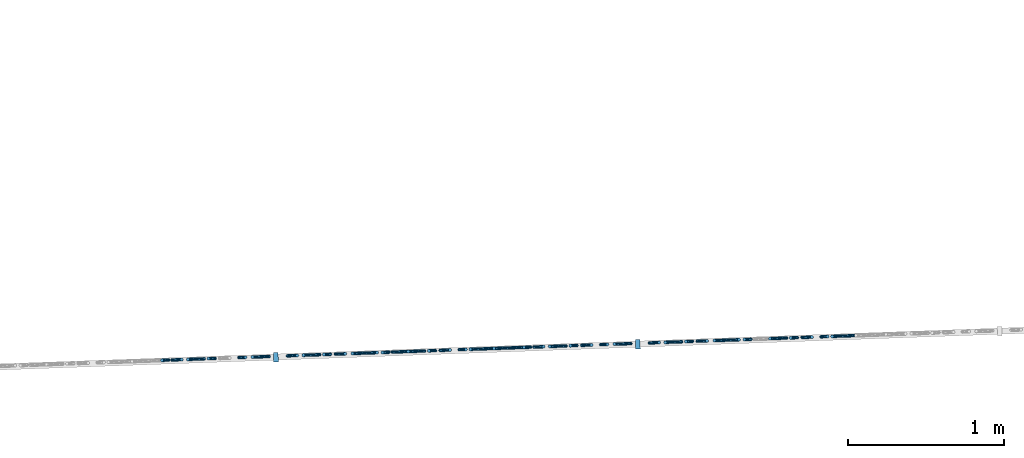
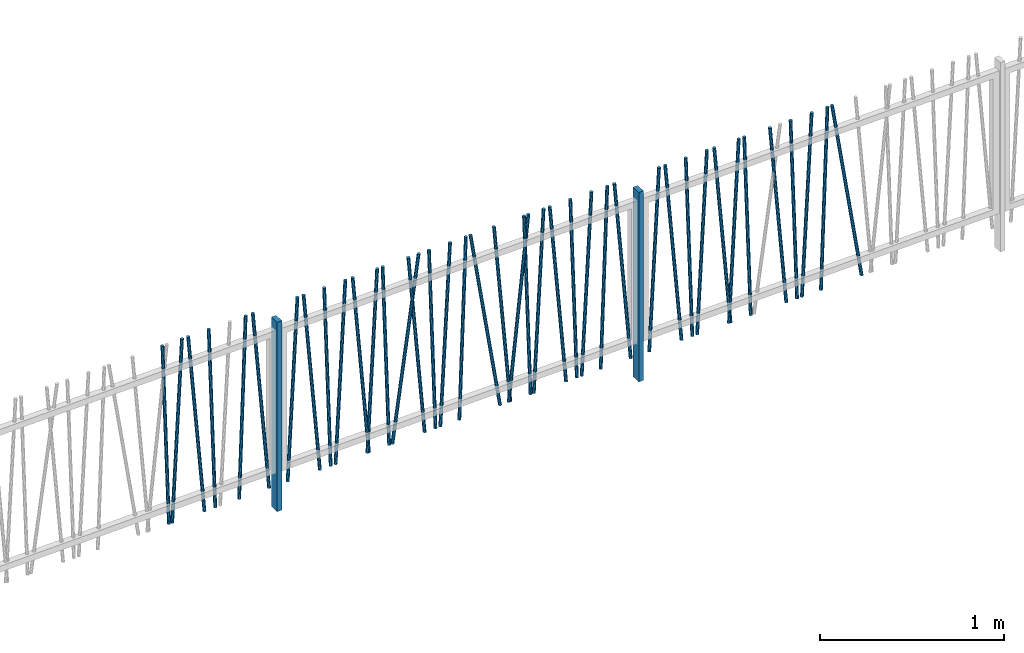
# One storey, part 3 of 171: 42 columns.
"""IFC2X3 building model written with IfcOpenShell, lengths in millimetres."""

from ifc_helpers import new_model, entity, si_unit, converted_unit, derived_unit, money_unit, direction, frame, origin_with_axes, origin_2d_with_axis, place, context, subcontext, project, spatial, rectangle, circle, extrude, clip, halfspace, material, type_object, element, save


model = new_model("IFC2X3")

# Units and contexts
model_context = context("Model", 3, precision=0.01, world=origin_with_axes(), true_north=direction((0.0, 1.0)))
body_context = subcontext(model_context, "Body", "Model", "MODEL_VIEW")
ifc_project = project(units=[si_unit("LENGTHUNIT", "METRE", prefix="MILLI"), si_unit("AREAUNIT", "SQUARE_METRE"), si_unit("VOLUMEUNIT", "CUBIC_METRE"), converted_unit("PLANEANGLEUNIT", "DEGREE", entity("IfcPlaneAngleMeasure", 0.0174532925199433), si_unit("PLANEANGLEUNIT", "RADIAN"), dimensions=[0, 0, 0, 0, 0, 0, 0]), money_unit("USD"), converted_unit("TIMEUNIT", "Year", entity("IfcTimeMeasure", 31557600.0), si_unit("TIMEUNIT", "SECOND"), dimensions=[0, 0, 1, 0, 0, 0, 0]), si_unit("MASSUNIT", "GRAM", prefix="KILO"), si_unit("THERMODYNAMICTEMPERATUREUNIT", "DEGREE_CELSIUS"), si_unit("LUMINOUSINTENSITYUNIT", "LUMEN"), si_unit("ENERGYUNIT", "JOULE", prefix="MEGA"), derived_unit("THERMALCONDUCTANCEUNIT", [(si_unit("POWERUNIT", "WATT"), 1), (si_unit("LENGTHUNIT", "METRE"), -1), (si_unit("THERMODYNAMICTEMPERATUREUNIT", "KELVIN"), -1)]), derived_unit("SPECIFICHEATCAPACITYUNIT", [(si_unit("ENERGYUNIT", "JOULE"), 1), (si_unit("MASSUNIT", "GRAM", prefix="KILO"), -1), (si_unit("THERMODYNAMICTEMPERATUREUNIT", "KELVIN"), -1)]), derived_unit("MASSDENSITYUNIT", [(si_unit("MASSUNIT", "GRAM", prefix="KILO"), 1), (si_unit("VOLUMEUNIT", "CUBIC_METRE"), -1)])], contexts=[model_context])

# Site, building, storey
site_placement = place(None, origin_with_axes())
site = spatial("IfcSite", under=ifc_project, at=site_placement, Name="Site", CompositionType="ELEMENT")
building_placement = place(site_placement, origin_with_axes())
building = spatial("IfcBuilding", under=site, at=building_placement, Name="Bâtiment", CompositionType="ELEMENT")
storey_placement = place(building_placement, frame((0.0, 0.0, 3000.0), z_axis=(0.0, 0.0, 1.0), x_axis=(1.0, 0.0, 0.0)))
storey = spatial("IfcBuildingStorey", under=building, at=storey_placement, Name="rdc", CompositionType="ELEMENT", Elevation=3000.0)

# Columns
ifc_material = material(Name="Empty Fill 2959611567")
column_type_1 = type_object("IfcColumnType", Name="Empty Fill 2959611567 D20", PredefinedType="NOTDEFINED")
column_1_placement = place(storey_placement, frame((2223132.164881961, -667928.4250005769, -1950.0), z_axis=(0.0, 0.0, 1.0), x_axis=(-0.03567989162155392, 0.9993632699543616, 0.0)))
element("IfcColumn", 1, at=column_1_placement, inside=storey, type_object=column_type_1, material=ifc_material, Name="Pilier-019", context=body_context, shape_type="Clipping", body=[
    clip(clip(extrude(circle(Radius=10.0, at=origin_2d_with_axis()), frame((0.0, -0.152502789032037, -1.743114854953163), z_axis=(0.0, 0.08715574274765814, 0.9961946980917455), x_axis=(1.0, 0.0, 0.0)), (0.0, 0.0, 1.0), 1208.083351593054), halfspace(frame((0.0, 0.0, 0.0), z_axis=(0.0, 0.0, 1.0), x_axis=(0.0, -1.0, 0.0)), True)), halfspace(frame((0.0, 0.0, 1200.0), z_axis=(0.0, 0.0, -1.0), x_axis=(0.0, 1.0, 0.0)), True)),
])
column_2_placement = place(storey_placement, frame((2222786.167293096, -667940.7780225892, -1950.0), z_axis=(0.0, 0.0, 1.0), x_axis=(-0.03567989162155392, 0.9993632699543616, 0.0)))
element("IfcColumn", 2, at=column_2_placement, inside=storey, type_object=column_type_1, material=ifc_material, Name="Pilier-019", context=body_context, shape_type="Clipping", body=[
    clip(clip(extrude(circle(Radius=10.0, at=origin_2d_with_axis()), frame((0.0, -0.02437434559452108, -0.6979899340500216), z_axis=(0.0, 0.03489949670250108, 0.9993908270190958), x_axis=(1.0, 0.0, 0.0)), (0.0, 0.0, 1.0), 1202.128283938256), halfspace(frame((0.0, 0.0, 0.0), z_axis=(0.0, 0.0, 1.0), x_axis=(0.0, -1.0, 0.0)), True)), halfspace(frame((0.0, 0.0, 1200.0), z_axis=(0.0, 0.0, -1.0), x_axis=(0.0, 1.0, 0.0)), True)),
])
column_3_placement = place(storey_placement, frame((2222939.695597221, -667935.2966591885, -1950.0), z_axis=(0.0, 0.0, 1.0), x_axis=(0.03567989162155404, -0.9993632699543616, 0.0)))
element("IfcColumn", 3, at=column_3_placement, inside=storey, type_object=column_type_1, material=ifc_material, Name="Pilier-019", context=body_context, shape_type="Clipping", body=[
    clip(clip(extrude(circle(Radius=10.0, at=origin_2d_with_axis()), frame((0.0, -0.02437434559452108, -0.6979899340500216), z_axis=(0.0, -0.03489949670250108, -0.9993908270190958), x_axis=(-1.0, 0.0, 0.0)), (0.0, 0.0, -1.0), 1202.128283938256), halfspace(frame((0.0, 0.0, 0.0), z_axis=(0.0, 0.0, 1.0), x_axis=(0.0, -1.0, 0.0)), True)), halfspace(frame((0.0, 0.0, 1200.0), z_axis=(0.0, 0.0, -1.0), x_axis=(0.0, 1.0, 0.0)), True)),
])
column_4_placement = place(storey_placement, frame((2222716.747175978, -667943.2565029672, -1950.0), z_axis=(0.0, 0.0, 1.0), x_axis=(-0.03567989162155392, 0.9993632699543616, 0.0)))
element("IfcColumn", 4, at=column_4_placement, inside=storey, type_object=column_type_1, material=ifc_material, Name="Pilier-019", context=body_context, shape_type="Clipping", body=[
    clip(clip(extrude(circle(Radius=10.0, at=origin_2d_with_axis()), frame((0.0, -0.152502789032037, -1.743114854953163), z_axis=(0.0, 0.08715574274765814, 0.9961946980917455), x_axis=(1.0, 0.0, 0.0)), (0.0, 0.0, 1.0), 1208.083351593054), halfspace(frame((0.0, 0.0, 0.0), z_axis=(0.0, 0.0, 1.0), x_axis=(0.0, -1.0, 0.0)), True)), halfspace(frame((0.0, 0.0, 1200.0), z_axis=(0.0, 0.0, -1.0), x_axis=(0.0, 1.0, 0.0)), True)),
])
column_5_placement = place(storey_placement, frame((2222509.738663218, -667950.647250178, -1950.0), z_axis=(0.0, 0.0, 1.0), x_axis=(0.03567989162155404, -0.9993632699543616, 0.0)))
element("IfcColumn", 5, at=column_5_placement, inside=storey, type_object=column_type_1, material=ifc_material, Name="Pilier-019", context=body_context, shape_type="Clipping", body=[
    clip(clip(extrude(circle(Radius=10.0, at=origin_2d_with_axis()), frame((0.0, -0.05485622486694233, -1.046719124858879), z_axis=(0.0, -0.05233595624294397, -0.9986295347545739), x_axis=(-1.0, 0.0, 0.0)), (0.0, 0.0, -1.0), 1203.743126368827), halfspace(frame((0.0, 0.0, 0.0), z_axis=(0.0, 0.0, 1.0), x_axis=(0.0, -1.0, 0.0)), True)), halfspace(frame((0.0, 0.0, 1200.0), z_axis=(0.0, 0.0, -1.0), x_axis=(0.0, 1.0, 0.0)), True)),
])
column_6_placement = place(storey_placement, frame((2222488.617743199, -667951.4013224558, -1950.0), z_axis=(0.0, 0.0, 1.0), x_axis=(-0.03567989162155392, 0.9993632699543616, 0.0)))
element("IfcColumn", 6, at=column_6_placement, inside=storey, type_object=column_type_1, material=ifc_material, Name="Pilier-019", context=body_context, shape_type="Clipping", body=[
    clip(clip(extrude(circle(Radius=10.0, at=origin_2d_with_axis()), frame((0.0, -0.02437434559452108, -0.6979899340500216), z_axis=(0.0, 0.03489949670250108, 0.9993908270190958), x_axis=(1.0, 0.0, 0.0)), (0.0, 0.0, 1.0), 1202.128283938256), halfspace(frame((0.0, 0.0, 0.0), z_axis=(0.0, 0.0, 1.0), x_axis=(0.0, -1.0, 0.0)), True)), halfspace(frame((0.0, 0.0, 1200.0), z_axis=(0.0, 0.0, -1.0), x_axis=(0.0, 1.0, 0.0)), True)),
])
column_7_placement = place(storey_placement, frame((2223763.590856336, -667905.8814360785, -1950.0), z_axis=(0.0, 0.0, 1.0), x_axis=(0.03567989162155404, -0.9993632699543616, 0.0)))
element("IfcColumn", 7, at=column_7_placement, inside=storey, type_object=column_type_1, material=ifc_material, Name="Pilier-019", context=body_context, shape_type="Clipping", body=[
    clip(clip(extrude(circle(Radius=10.0, at=origin_2d_with_axis()), frame((0.0, -0.05485622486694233, -1.046719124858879), z_axis=(0.0, -0.05233595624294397, -0.9986295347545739), x_axis=(-1.0, 0.0, 0.0)), (0.0, 0.0, -1.0), 1203.743126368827), halfspace(frame((0.0, 0.0, 0.0), z_axis=(0.0, 0.0, 1.0), x_axis=(0.0, -1.0, 0.0)), True)), halfspace(frame((0.0, 0.0, 1200.0), z_axis=(0.0, 0.0, -1.0), x_axis=(0.0, 1.0, 0.0)), True)),
])
column_8_placement = place(storey_placement, frame((2224200.868986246, -667890.2694591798, -1950.0), z_axis=(0.0, 0.0, 1.0), x_axis=(-0.03567989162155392, 0.9993632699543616, 0.0)))
element("IfcColumn", 8, at=column_8_placement, inside=storey, type_object=column_type_1, material=ifc_material, Name="Pilier-019", context=body_context, shape_type="Clipping", body=[
    clip(clip(extrude(circle(Radius=10.0, at=origin_2d_with_axis()), frame((0.0, -0.02437434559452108, -0.6979899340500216), z_axis=(0.0, 0.03489949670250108, 0.9993908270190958), x_axis=(1.0, 0.0, 0.0)), (0.0, 0.0, 1.0), 1202.128283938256), halfspace(frame((0.0, 0.0, 0.0), z_axis=(0.0, 0.0, 1.0), x_axis=(0.0, -1.0, 0.0)), True)), halfspace(frame((0.0, 0.0, 1200.0), z_axis=(0.0, 0.0, -1.0), x_axis=(0.0, 1.0, 0.0)), True)),
])
column_9_placement = place(storey_placement, frame((2224354.397290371, -667884.7880957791, -1950.0), z_axis=(0.0, 0.0, 1.0), x_axis=(0.03567989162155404, -0.9993632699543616, 0.0)))
element("IfcColumn", 9, at=column_9_placement, inside=storey, type_object=column_type_1, material=ifc_material, Name="Pilier-019", context=body_context, shape_type="Clipping", body=[
    clip(clip(extrude(circle(Radius=10.0, at=origin_2d_with_axis()), frame((0.0, -0.02437434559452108, -0.6979899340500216), z_axis=(0.0, -0.03489949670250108, -0.9993908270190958), x_axis=(-1.0, 0.0, 0.0)), (0.0, 0.0, -1.0), 1202.128283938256), halfspace(frame((0.0, 0.0, 0.0), z_axis=(0.0, 0.0, 1.0), x_axis=(0.0, -1.0, 0.0)), True)), halfspace(frame((0.0, 0.0, 1200.0), z_axis=(0.0, 0.0, -1.0), x_axis=(0.0, 1.0, 0.0)), True)),
])
column_10_placement = place(storey_placement, frame((2223903.319436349, -667900.8927590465, -1950.0), z_axis=(0.0, 0.0, 1.0), x_axis=(-0.03567989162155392, 0.9993632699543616, 0.0)))
element("IfcColumn", 10, at=column_10_placement, inside=storey, type_object=column_type_1, material=ifc_material, Name="Pilier-019", context=body_context, shape_type="Clipping", body=[
    clip(clip(extrude(circle(Radius=10.0, at=origin_2d_with_axis()), frame((0.0, -0.02437434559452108, -0.6979899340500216), z_axis=(0.0, 0.03489949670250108, 0.9993908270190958), x_axis=(1.0, 0.0, 0.0)), (0.0, 0.0, 1.0), 1202.128283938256), halfspace(frame((0.0, 0.0, 0.0), z_axis=(0.0, 0.0, 1.0), x_axis=(0.0, -1.0, 0.0)), True)), halfspace(frame((0.0, 0.0, 1200.0), z_axis=(0.0, 0.0, -1.0), x_axis=(0.0, 1.0, 0.0)), True)),
])
column_11_placement = place(storey_placement, frame((2224232.142214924, -667889.1529228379, -1950.0), z_axis=(0.0, 0.0, 1.0), x_axis=(0.03567989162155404, -0.9993632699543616, 0.0)))
element("IfcColumn", 11, at=column_11_placement, inside=storey, type_object=column_type_1, material=ifc_material, Name="Pilier-019", context=body_context, shape_type="Clipping", body=[
    clip(clip(extrude(circle(Radius=10.0, at=origin_2d_with_axis()), frame((0.0, -0.05485622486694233, -1.046719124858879), z_axis=(0.0, -0.05233595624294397, -0.9986295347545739), x_axis=(-1.0, 0.0, 0.0)), (0.0, 0.0, -1.0), 1203.743126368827), halfspace(frame((0.0, 0.0, 0.0), z_axis=(0.0, 0.0, 1.0), x_axis=(0.0, -1.0, 0.0)), True)), halfspace(frame((0.0, 0.0, 1200.0), z_axis=(0.0, 0.0, -1.0), x_axis=(0.0, 1.0, 0.0)), True)),
])
column_12_placement = place(storey_placement, frame((2224615.569095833, -667875.4635768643, -1950.0), z_axis=(0.0, 0.0, 1.0), x_axis=(-0.03567989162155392, 0.9993632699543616, 0.0)))
element("IfcColumn", 12, at=column_12_placement, inside=storey, type_object=column_type_1, material=ifc_material, Name="Pilier-019", context=body_context, shape_type="Clipping", body=[
    clip(clip(extrude(circle(Radius=10.0, at=origin_2d_with_axis()), frame((0.0, -0.4955357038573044, -3.128689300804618), z_axis=(0.0, 0.1564344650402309, 0.9876883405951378), x_axis=(1.0, 0.0, 0.0)), (0.0, 0.0, 1.0), 1221.293528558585), halfspace(frame((0.0, 0.0, 0.0), z_axis=(0.0, 0.0, 1.0), x_axis=(0.0, -1.0, 0.0)), True)), halfspace(frame((0.0, 0.0, 1200.0), z_axis=(0.0, 0.0, -1.0), x_axis=(0.0, 1.0, 0.0)), True)),
])
for number, where, z_axis, x_axis, name in (
    (13, (2224681.775417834, -667873.0998374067, -1950.0), (0.0, 0.0, 1.0), (-0.03567989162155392, 0.9993632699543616, 0.0), "Pilier-019"),
    (14, (2225455.152802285, -667845.4882350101, -1950.0), (0.0, 0.0, 1.0), (-0.03567989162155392, 0.9993632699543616, 0.0), "Pilier-019"),
    (15, (2223773.48919066, -667905.5280395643, -1950.0), (0.0, 0.0, 1.0), (-0.03567989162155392, 0.9993632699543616, 0.0), "Pilier-019"),
):
    element("IfcColumn", number, at=place(storey_placement, frame(where, z_axis=z_axis, x_axis=x_axis)), inside=storey, type_object=column_type_1, material=ifc_material, Name=name, context=body_context, shape_type="Clipping", body=[
        clip(clip(extrude(circle(Radius=10.0, at=origin_2d_with_axis()), frame((0.0, -0.152502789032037, -1.743114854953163), z_axis=(0.0, 0.08715574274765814, 0.9961946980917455), x_axis=(1.0, 0.0, 0.0)), (0.0, 0.0, 1.0), 1208.083351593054), halfspace(frame((0.0, 0.0, 0.0), z_axis=(0.0, 0.0, 1.0), x_axis=(0.0, -1.0, 0.0)), True)), halfspace(frame((0.0, 0.0, 1200.0), z_axis=(0.0, 0.0, -1.0), x_axis=(0.0, 1.0, 0.0)), True)),
    ])
column_13_placement = place(storey_placement, frame((2223527.861989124, -667914.2975753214, -1950.0), z_axis=(0.0, 0.0, 1.0), x_axis=(-0.03567989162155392, 0.9993632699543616, 0.0)))
element("IfcColumn", 16, at=column_13_placement, inside=storey, type_object=column_type_1, material=ifc_material, Name="Pilier-019", context=body_context, shape_type="Clipping", body=[
    clip(clip(extrude(circle(Radius=10.0, at=origin_2d_with_axis()), frame((0.0, -0.02437434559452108, -0.6979899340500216), z_axis=(0.0, 0.03489949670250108, 0.9993908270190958), x_axis=(1.0, 0.0, 0.0)), (0.0, 0.0, 1.0), 1202.128283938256), halfspace(frame((0.0, 0.0, 0.0), z_axis=(0.0, 0.0, 1.0), x_axis=(0.0, -1.0, 0.0)), True)), halfspace(frame((0.0, 0.0, 1200.0), z_axis=(0.0, 0.0, -1.0), x_axis=(0.0, 1.0, 0.0)), True)),
])
column_14_placement = place(storey_placement, frame((2224131.448869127, -667892.747939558, -1950.0), z_axis=(0.0, 0.0, 1.0), x_axis=(-0.03567989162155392, 0.9993632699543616, 0.0)))
element("IfcColumn", 17, at=column_14_placement, inside=storey, type_object=column_type_1, material=ifc_material, Name="Pilier-019", context=body_context, shape_type="Clipping", body=[
    clip(clip(extrude(circle(Radius=10.0, at=origin_2d_with_axis()), frame((0.0, -0.152502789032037, -1.743114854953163), z_axis=(0.0, 0.08715574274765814, 0.9961946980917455), x_axis=(1.0, 0.0, 0.0)), (0.0, 0.0, 1.0), 1208.083351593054), halfspace(frame((0.0, 0.0, 0.0), z_axis=(0.0, 0.0, 1.0), x_axis=(0.0, -1.0, 0.0)), True)), halfspace(frame((0.0, 0.0, 1200.0), z_axis=(0.0, 0.0, -1.0), x_axis=(0.0, 1.0, 0.0)), True)),
])
column_15_placement = place(storey_placement, frame((2224671.877083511, -667873.4532339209, -1950.0), z_axis=(0.0, 0.0, 1.0), x_axis=(0.03567989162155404, -0.9993632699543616, 0.0)))
element("IfcColumn", 18, at=column_15_placement, inside=storey, type_object=column_type_1, material=ifc_material, Name="Pilier-019", context=body_context, shape_type="Clipping", body=[
    clip(clip(extrude(circle(Radius=10.0, at=origin_2d_with_axis()), frame((0.0, -0.2197276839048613, -2.090569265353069), z_axis=(0.0, -0.1045284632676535, -0.9945218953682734), x_axis=(-1.0, 0.0, 0.0)), (0.0, 0.0, -1.0), 1210.814104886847), halfspace(frame((0.0, 0.0, 0.0), z_axis=(0.0, 0.0, 1.0), x_axis=(0.0, -1.0, 0.0)), True)), halfspace(frame((0.0, 0.0, 1200.0), z_axis=(0.0, 0.0, -1.0), x_axis=(0.0, 1.0, 0.0)), True)),
])
column_16_placement = place(storey_placement, frame((2225140.428442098, -667856.7247206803, -1950.0), z_axis=(0.0, 0.0, 1.0), x_axis=(0.03567989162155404, -0.9993632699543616, 0.0)))
element("IfcColumn", 19, at=column_16_placement, inside=storey, type_object=column_type_1, material=ifc_material, Name="Pilier-019", context=body_context, shape_type="Clipping", body=[
    clip(clip(extrude(circle(Radius=10.0, at=origin_2d_with_axis()), frame((0.0, -0.05485622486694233, -1.046719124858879), z_axis=(0.0, -0.05233595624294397, -0.9986295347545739), x_axis=(-1.0, 0.0, 0.0)), (0.0, 0.0, -1.0), 1203.743126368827), halfspace(frame((0.0, 0.0, 0.0), z_axis=(0.0, 0.0, 1.0), x_axis=(0.0, -1.0, 0.0)), True)), halfspace(frame((0.0, 0.0, 1200.0), z_axis=(0.0, 0.0, -1.0), x_axis=(0.0, 1.0, 0.0)), True)),
])
column_17_placement = place(storey_placement, frame((2223924.440356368, -667900.1386867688, -1950.0), z_axis=(0.0, 0.0, 1.0), x_axis=(0.03567989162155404, -0.9993632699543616, 0.0)))
element("IfcColumn", 20, at=column_17_placement, inside=storey, type_object=column_type_1, material=ifc_material, Name="Pilier-019", context=body_context, shape_type="Clipping", body=[
    clip(clip(extrude(circle(Radius=10.0, at=origin_2d_with_axis()), frame((0.0, -0.3911900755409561, -2.78346201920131), z_axis=(0.0, -0.1391731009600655, -0.9902680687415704), x_axis=(-1.0, 0.0, 0.0)), (0.0, 0.0, -1.0), 1217.414720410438), halfspace(frame((0.0, 0.0, 0.0), z_axis=(0.0, 0.0, 1.0), x_axis=(0.0, -1.0, 0.0)), True)), halfspace(frame((0.0, 0.0, 1200.0), z_axis=(0.0, 0.0, -1.0), x_axis=(0.0, 1.0, 0.0)), True)),
])
column_18_placement = place(storey_placement, frame((2225262.683517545, -667852.3598936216, -1950.0), z_axis=(0.0, 0.0, 1.0), x_axis=(0.03567989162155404, -0.9993632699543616, 0.0)))
element("IfcColumn", 21, at=column_18_placement, inside=storey, type_object=column_type_1, material=ifc_material, Name="Pilier-019", context=body_context, shape_type="Clipping", body=[
    clip(clip(extrude(circle(Radius=10.0, at=origin_2d_with_axis()), frame((0.0, -0.02437434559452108, -0.6979899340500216), z_axis=(0.0, -0.03489949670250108, -0.9993908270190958), x_axis=(-1.0, 0.0, 0.0)), (0.0, 0.0, -1.0), 1202.128283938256), halfspace(frame((0.0, 0.0, 0.0), z_axis=(0.0, 0.0, 1.0), x_axis=(0.0, -1.0, 0.0)), True)), halfspace(frame((0.0, 0.0, 1200.0), z_axis=(0.0, 0.0, -1.0), x_axis=(0.0, 1.0, 0.0)), True)),
])
column_19_placement = place(storey_placement, frame((2225039.735096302, -667860.3197374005, -1950.0), z_axis=(0.0, 0.0, 1.0), x_axis=(-0.03567989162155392, 0.9993632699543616, 0.0)))
element("IfcColumn", 22, at=column_19_placement, inside=storey, type_object=column_type_1, material=ifc_material, Name="Pilier-019", context=body_context, shape_type="Clipping", body=[
    clip(clip(extrude(circle(Radius=10.0, at=origin_2d_with_axis()), frame((0.0, -0.152502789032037, -1.743114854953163), z_axis=(0.0, 0.08715574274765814, 0.9961946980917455), x_axis=(1.0, 0.0, 0.0)), (0.0, 0.0, 1.0), 1208.083351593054), halfspace(frame((0.0, 0.0, 0.0), z_axis=(0.0, 0.0, 1.0), x_axis=(0.0, -1.0, 0.0)), True)), halfspace(frame((0.0, 0.0, 1200.0), z_axis=(0.0, 0.0, -1.0), x_axis=(0.0, 1.0, 0.0)), True)),
])
column_20_placement = place(storey_placement, frame((2225109.15521342, -667857.8412570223, -1950.0), z_axis=(0.0, 0.0, 1.0), x_axis=(-0.03567989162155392, 0.9993632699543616, 0.0)))
element("IfcColumn", 23, at=column_20_placement, inside=storey, type_object=column_type_1, material=ifc_material, Name="Pilier-019", context=body_context, shape_type="Clipping", body=[
    clip(clip(extrude(circle(Radius=10.0, at=origin_2d_with_axis()), frame((0.0, -0.02437434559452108, -0.6979899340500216), z_axis=(0.0, 0.03489949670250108, 0.9993908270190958), x_axis=(1.0, 0.0, 0.0)), (0.0, 0.0, 1.0), 1202.128283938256), halfspace(frame((0.0, 0.0, 0.0), z_axis=(0.0, 0.0, 1.0), x_axis=(0.0, -1.0, 0.0)), True)), halfspace(frame((0.0, 0.0, 1200.0), z_axis=(0.0, 0.0, -1.0), x_axis=(0.0, 1.0, 0.0)), True)),
])
column_21_placement = place(storey_placement, frame((2224832.726583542, -667867.7104846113, -1950.0), z_axis=(0.0, 0.0, 1.0), x_axis=(0.03567989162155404, -0.9993632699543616, 0.0)))
element("IfcColumn", 24, at=column_21_placement, inside=storey, type_object=column_type_1, material=ifc_material, Name="Pilier-019", context=body_context, shape_type="Clipping", body=[
    clip(clip(extrude(circle(Radius=10.0, at=origin_2d_with_axis()), frame((0.0, -0.05485622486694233, -1.046719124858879), z_axis=(0.0, -0.05233595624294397, -0.9986295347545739), x_axis=(-1.0, 0.0, 0.0)), (0.0, 0.0, -1.0), 1203.743126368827), halfspace(frame((0.0, 0.0, 0.0), z_axis=(0.0, 0.0, 1.0), x_axis=(0.0, -1.0, 0.0)), True)), halfspace(frame((0.0, 0.0, 1200.0), z_axis=(0.0, 0.0, -1.0), x_axis=(0.0, 1.0, 0.0)), True)),
])
column_22_placement = place(storey_placement, frame((2224811.605663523, -667868.4645568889, -1950.0), z_axis=(0.0, 0.0, 1.0), x_axis=(-0.03567989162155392, 0.9993632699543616, 0.0)))
element("IfcColumn", 25, at=column_22_placement, inside=storey, type_object=column_type_1, material=ifc_material, Name="Pilier-019", context=body_context, shape_type="Clipping", body=[
    clip(clip(extrude(circle(Radius=10.0, at=origin_2d_with_axis()), frame((0.0, -0.02437434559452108, -0.6979899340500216), z_axis=(0.0, 0.03489949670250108, 0.9993908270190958), x_axis=(1.0, 0.0, 0.0)), (0.0, 0.0, 1.0), 1202.128283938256), halfspace(frame((0.0, 0.0, 0.0), z_axis=(0.0, 0.0, 1.0), x_axis=(0.0, -1.0, 0.0)), True)), halfspace(frame((0.0, 0.0, 1200.0), z_axis=(0.0, 0.0, -1.0), x_axis=(0.0, 1.0, 0.0)), True)),
])
column_23_placement = place(storey_placement, frame((2223559.135217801, -667913.1810389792, -1950.0), z_axis=(0.0, 0.0, 1.0), x_axis=(0.03567989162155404, -0.9993632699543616, 0.0)))
element("IfcColumn", 26, at=column_23_placement, inside=storey, type_object=column_type_1, material=ifc_material, Name="Pilier-019", context=body_context, shape_type="Clipping", body=[
    clip(clip(extrude(circle(Radius=10.0, at=origin_2d_with_axis()), frame((0.0, -0.05485622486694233, -1.046719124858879), z_axis=(0.0, -0.05233595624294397, -0.9986295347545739), x_axis=(-1.0, 0.0, 0.0)), (0.0, 0.0, -1.0), 1203.743126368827), halfspace(frame((0.0, 0.0, 0.0), z_axis=(0.0, 0.0, 1.0), x_axis=(0.0, -1.0, 0.0)), True)), halfspace(frame((0.0, 0.0, 1200.0), z_axis=(0.0, 0.0, -1.0), x_axis=(0.0, 1.0, 0.0)), True)),
])
column_24_placement = place(storey_placement, frame((2223458.441872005, -667916.7760556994, -1950.0), z_axis=(0.0, 0.0, 1.0), x_axis=(-0.03567989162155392, 0.9993632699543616, 0.0)))
element("IfcColumn", 27, at=column_24_placement, inside=storey, type_object=column_type_1, material=ifc_material, Name="Pilier-019", context=body_context, shape_type="Clipping", body=[
    clip(clip(extrude(circle(Radius=10.0, at=origin_2d_with_axis()), frame((0.0, -0.152502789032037, -1.743114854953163), z_axis=(0.0, 0.08715574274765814, 0.9961946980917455), x_axis=(1.0, 0.0, 0.0)), (0.0, 0.0, 1.0), 1208.083351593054), halfspace(frame((0.0, 0.0, 0.0), z_axis=(0.0, 0.0, 1.0), x_axis=(0.0, -1.0, 0.0)), True)), halfspace(frame((0.0, 0.0, 1200.0), z_axis=(0.0, 0.0, -1.0), x_axis=(0.0, 1.0, 0.0)), True)),
])
column_25_placement = place(storey_placement, frame((2226086.57877666, -667822.9446705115, -1950.0), z_axis=(0.0, 0.0, 1.0), x_axis=(0.03567989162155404, -0.9993632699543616, 0.0)))
element("IfcColumn", 28, at=column_25_placement, inside=storey, type_object=column_type_1, material=ifc_material, Name="Pilier-019", context=body_context, shape_type="Clipping", body=[
    clip(clip(extrude(circle(Radius=10.0, at=origin_2d_with_axis()), frame((0.0, -0.05485622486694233, -1.046719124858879), z_axis=(0.0, -0.05233595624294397, -0.9986295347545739), x_axis=(-1.0, 0.0, 0.0)), (0.0, 0.0, -1.0), 1203.743126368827), halfspace(frame((0.0, 0.0, 0.0), z_axis=(0.0, 0.0, 1.0), x_axis=(0.0, -1.0, 0.0)), True)), halfspace(frame((0.0, 0.0, 1200.0), z_axis=(0.0, 0.0, -1.0), x_axis=(0.0, 1.0, 0.0)), True)),
])
column_26_placement = place(storey_placement, frame((2226677.385210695, -667801.8513302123, -1950.0), z_axis=(0.0, 0.0, 1.0), x_axis=(0.03567989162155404, -0.9993632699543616, 0.0)))
element("IfcColumn", 29, at=column_26_placement, inside=storey, type_object=column_type_1, material=ifc_material, Name="Pilier-019", context=body_context, shape_type="Clipping", body=[
    clip(clip(extrude(circle(Radius=10.0, at=origin_2d_with_axis()), frame((0.0, -0.02437434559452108, -0.6979899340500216), z_axis=(0.0, -0.03489949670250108, -0.9993908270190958), x_axis=(-1.0, 0.0, 0.0)), (0.0, 0.0, -1.0), 1202.128283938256), halfspace(frame((0.0, 0.0, 0.0), z_axis=(0.0, 0.0, 1.0), x_axis=(0.0, -1.0, 0.0)), True)), halfspace(frame((0.0, 0.0, 1200.0), z_axis=(0.0, 0.0, -1.0), x_axis=(0.0, 1.0, 0.0)), True)),
])
column_27_placement = place(storey_placement, frame((2226226.307356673, -667817.9559934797, -1950.0), z_axis=(0.0, 0.0, 1.0), x_axis=(-0.03567989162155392, 0.9993632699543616, 0.0)))
element("IfcColumn", 30, at=column_27_placement, inside=storey, type_object=column_type_1, material=ifc_material, Name="Pilier-019", context=body_context, shape_type="Clipping", body=[
    clip(clip(extrude(circle(Radius=10.0, at=origin_2d_with_axis()), frame((0.0, -0.02437434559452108, -0.6979899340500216), z_axis=(0.0, 0.03489949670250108, 0.9993908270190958), x_axis=(1.0, 0.0, 0.0)), (0.0, 0.0, 1.0), 1202.128283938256), halfspace(frame((0.0, 0.0, 0.0), z_axis=(0.0, 0.0, 1.0), x_axis=(0.0, -1.0, 0.0)), True)), halfspace(frame((0.0, 0.0, 1200.0), z_axis=(0.0, 0.0, -1.0), x_axis=(0.0, 1.0, 0.0)), True)),
])
column_28_placement = place(storey_placement, frame((2226555.130135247, -667806.2161572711, -1950.0), z_axis=(0.0, 0.0, 1.0), x_axis=(0.03567989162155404, -0.9993632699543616, 0.0)))
element("IfcColumn", 31, at=column_28_placement, inside=storey, type_object=column_type_1, material=ifc_material, Name="Pilier-019", context=body_context, shape_type="Clipping", body=[
    clip(clip(extrude(circle(Radius=10.0, at=origin_2d_with_axis()), frame((0.0, -0.05485622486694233, -1.046719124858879), z_axis=(0.0, -0.05233595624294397, -0.9986295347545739), x_axis=(-1.0, 0.0, 0.0)), (0.0, 0.0, -1.0), 1203.743126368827), halfspace(frame((0.0, 0.0, 0.0), z_axis=(0.0, 0.0, 1.0), x_axis=(0.0, -1.0, 0.0)), True)), halfspace(frame((0.0, 0.0, 1200.0), z_axis=(0.0, 0.0, -1.0), x_axis=(0.0, 1.0, 0.0)), True)),
])
column_29_placement = place(storey_placement, frame((2226523.85690657, -667807.332693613, -1950.0), z_axis=(0.0, 0.0, 1.0), x_axis=(-0.03567989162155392, 0.9993632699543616, 0.0)))
element("IfcColumn", 32, at=column_29_placement, inside=storey, type_object=column_type_1, material=ifc_material, Name="Pilier-019", context=body_context, shape_type="Clipping", body=[
    clip(clip(extrude(circle(Radius=10.0, at=origin_2d_with_axis()), frame((0.0, -0.02437434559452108, -0.6979899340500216), z_axis=(0.0, 0.03489949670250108, 0.9993908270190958), x_axis=(1.0, 0.0, 0.0)), (0.0, 0.0, 1.0), 1202.128283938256), halfspace(frame((0.0, 0.0, 0.0), z_axis=(0.0, 0.0, 1.0), x_axis=(0.0, -1.0, 0.0)), True)), halfspace(frame((0.0, 0.0, 1200.0), z_axis=(0.0, 0.0, -1.0), x_axis=(0.0, 1.0, 0.0)), True)),
])
column_30_placement = place(storey_placement, frame((2226938.557016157, -667792.5268112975, -1950.0), z_axis=(0.0, 0.0, 1.0), x_axis=(-0.03567989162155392, 0.9993632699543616, 0.0)))
element("IfcColumn", 33, at=column_30_placement, inside=storey, type_object=column_type_1, material=ifc_material, Name="Pilier-019", context=body_context, shape_type="Clipping", body=[
    clip(clip(extrude(circle(Radius=10.0, at=origin_2d_with_axis()), frame((0.0, -0.4955357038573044, -3.128689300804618), z_axis=(0.0, 0.1564344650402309, 0.9876883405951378), x_axis=(1.0, 0.0, 0.0)), (0.0, 0.0, 1.0), 1221.293528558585), halfspace(frame((0.0, 0.0, 0.0), z_axis=(0.0, 0.0, 1.0), x_axis=(0.0, -1.0, 0.0)), True)), halfspace(frame((0.0, 0.0, 1200.0), z_axis=(0.0, 0.0, -1.0), x_axis=(0.0, 1.0, 0.0)), True)),
])
column_31_placement = place(storey_placement, frame((2225882.123138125, -667830.2442734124, -1950.0), z_axis=(0.0, 0.0, 1.0), x_axis=(0.03567989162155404, -0.9993632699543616, 0.0)))
element("IfcColumn", 34, at=column_31_placement, inside=storey, type_object=column_type_1, material=ifc_material, Name="Pilier-019", context=body_context, shape_type="Clipping", body=[
    clip(clip(extrude(circle(Radius=10.0, at=origin_2d_with_axis()), frame((0.0, -0.05485622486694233, -1.046719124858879), z_axis=(0.0, -0.05233595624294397, -0.9986295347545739), x_axis=(-1.0, 0.0, 0.0)), (0.0, 0.0, -1.0), 1203.743126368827), halfspace(frame((0.0, 0.0, 0.0), z_axis=(0.0, 0.0, 1.0), x_axis=(0.0, -1.0, 0.0)), True)), halfspace(frame((0.0, 0.0, 1200.0), z_axis=(0.0, 0.0, -1.0), x_axis=(0.0, 1.0, 0.0)), True)),
])
column_32_placement = place(storey_placement, frame((2226096.477110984, -667822.5912739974, -1950.0), z_axis=(0.0, 0.0, 1.0), x_axis=(-0.03567989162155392, 0.9993632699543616, 0.0)))
element("IfcColumn", 35, at=column_32_placement, inside=storey, type_object=column_type_1, material=ifc_material, Name="Pilier-019", context=body_context, shape_type="Clipping", body=[
    clip(clip(extrude(circle(Radius=10.0, at=origin_2d_with_axis()), frame((0.0, -0.152502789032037, -1.743114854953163), z_axis=(0.0, 0.08715574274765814, 0.9961946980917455), x_axis=(1.0, 0.0, 0.0)), (0.0, 0.0, 1.0), 1208.083351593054), halfspace(frame((0.0, 0.0, 0.0), z_axis=(0.0, 0.0, 1.0), x_axis=(0.0, -1.0, 0.0)), True)), halfspace(frame((0.0, 0.0, 1200.0), z_axis=(0.0, 0.0, -1.0), x_axis=(0.0, 1.0, 0.0)), True)),
])
column_33_placement = place(storey_placement, frame((2225850.849909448, -667831.3608097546, -1950.0), z_axis=(0.0, 0.0, 1.0), x_axis=(-0.03567989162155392, 0.9993632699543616, 0.0)))
element("IfcColumn", 36, at=column_33_placement, inside=storey, type_object=column_type_1, material=ifc_material, Name="Pilier-019", context=body_context, shape_type="Clipping", body=[
    clip(clip(extrude(circle(Radius=10.0, at=origin_2d_with_axis()), frame((0.0, -0.02437434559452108, -0.6979899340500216), z_axis=(0.0, 0.03489949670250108, 0.9993908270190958), x_axis=(1.0, 0.0, 0.0)), (0.0, 0.0, 1.0), 1202.128283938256), halfspace(frame((0.0, 0.0, 0.0), z_axis=(0.0, 0.0, 1.0), x_axis=(0.0, -1.0, 0.0)), True)), halfspace(frame((0.0, 0.0, 1200.0), z_axis=(0.0, 0.0, -1.0), x_axis=(0.0, 1.0, 0.0)), True)),
])
column_34_placement = place(storey_placement, frame((2226454.436789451, -667809.8111739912, -1950.0), z_axis=(0.0, 0.0, 1.0), x_axis=(-0.03567989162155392, 0.9993632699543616, 0.0)))
element("IfcColumn", 37, at=column_34_placement, inside=storey, type_object=column_type_1, material=ifc_material, Name="Pilier-019", context=body_context, shape_type="Clipping", body=[
    clip(clip(extrude(circle(Radius=10.0, at=origin_2d_with_axis()), frame((0.0, -0.152502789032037, -1.743114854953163), z_axis=(0.0, 0.08715574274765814, 0.9961946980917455), x_axis=(1.0, 0.0, 0.0)), (0.0, 0.0, 1.0), 1208.083351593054), halfspace(frame((0.0, 0.0, 0.0), z_axis=(0.0, 0.0, 1.0), x_axis=(0.0, -1.0, 0.0)), True)), halfspace(frame((0.0, 0.0, 1200.0), z_axis=(0.0, 0.0, -1.0), x_axis=(0.0, 1.0, 0.0)), True)),
])
column_35_placement = place(storey_placement, frame((2223251.433359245, -667924.1668029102, -1950.0), z_axis=(0.0, 0.0, 1.0), x_axis=(0.03567989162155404, -0.9993632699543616, 0.0)))
element("IfcColumn", 38, at=column_35_placement, inside=storey, type_object=column_type_1, material=ifc_material, Name="Pilier-019", context=body_context, shape_type="Clipping", body=[
    clip(clip(extrude(circle(Radius=10.0, at=origin_2d_with_axis()), frame((0.0, -0.05485622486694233, -1.046719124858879), z_axis=(0.0, -0.05233595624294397, -0.9986295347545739), x_axis=(-1.0, 0.0, 0.0)), (0.0, 0.0, -1.0), 1203.743126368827), halfspace(frame((0.0, 0.0, 0.0), z_axis=(0.0, 0.0, 1.0), x_axis=(0.0, -1.0, 0.0)), True)), halfspace(frame((0.0, 0.0, 1200.0), z_axis=(0.0, 0.0, -1.0), x_axis=(0.0, 1.0, 0.0)), True)),
])
column_36_placement = place(storey_placement, frame((2225781.42979233, -667833.8392901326, -1950.0), z_axis=(0.0, 0.0, 1.0), x_axis=(-0.03567989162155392, 0.9993632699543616, 0.0)))
element("IfcColumn", 39, at=column_36_placement, inside=storey, type_object=column_type_1, material=ifc_material, Name="Pilier-019", context=body_context, shape_type="Clipping", body=[
    clip(clip(extrude(circle(Radius=10.0, at=origin_2d_with_axis()), frame((0.0, -0.152502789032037, -1.743114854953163), z_axis=(0.0, 0.08715574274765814, 0.9961946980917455), x_axis=(1.0, 0.0, 0.0)), (0.0, 0.0, 1.0), 1208.083351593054), halfspace(frame((0.0, 0.0, 0.0), z_axis=(0.0, 0.0, 1.0), x_axis=(0.0, -1.0, 0.0)), True)), halfspace(frame((0.0, 0.0, 1200.0), z_axis=(0.0, 0.0, -1.0), x_axis=(0.0, 1.0, 0.0)), True)),
])
column_37_placement = place(storey_placement, frame((2225574.42127957, -667841.2300373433, -1950.0), z_axis=(0.0, 0.0, 1.0), x_axis=(0.03567989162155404, -0.9993632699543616, 0.0)))
element("IfcColumn", 40, at=column_37_placement, inside=storey, type_object=column_type_1, material=ifc_material, Name="Pilier-019", context=body_context, shape_type="Clipping", body=[
    clip(clip(extrude(circle(Radius=10.0, at=origin_2d_with_axis()), frame((0.0, -0.05485622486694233, -1.046719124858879), z_axis=(0.0, -0.05233595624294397, -0.9986295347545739), x_axis=(-1.0, 0.0, 0.0)), (0.0, 0.0, -1.0), 1203.743126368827), halfspace(frame((0.0, 0.0, 0.0), z_axis=(0.0, 0.0, 1.0), x_axis=(0.0, -1.0, 0.0)), True)), halfspace(frame((0.0, 0.0, 1200.0), z_axis=(0.0, 0.0, -1.0), x_axis=(0.0, 1.0, 0.0)), True)),
])
column_type_2 = type_object("IfcColumnType", Name="Empty Fill 2959611567 30 x 60", PredefinedType="NOTDEFINED")
for number, where, z_axis, x_axis, name in (
    (41, (2223177.204194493, -667932.8469816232, -2100.0), (0.0, 0.0, 1.0), (0.9993632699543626, 0.03567989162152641, 0.0), "Pilier-019"),
    (42, (2225500.192114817, -667849.9102160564, -2100.0), (0.0, 0.0, 1.0), (0.9993632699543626, 0.03567989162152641, 0.0), "Pilier-019"),
):
    element("IfcColumn", number, at=place(storey_placement, frame(where, z_axis=z_axis, x_axis=x_axis)), inside=storey, type_object=column_type_2, material=ifc_material, Name=name, context=body_context, shape_type="SweptSolid", body=[
        extrude(rectangle(XDim=30.0, YDim=60.0, at=origin_2d_with_axis()), origin_with_axes(), (0.0, 0.0, 1.0), 1260.0),
    ])

save(model, "model.ifc")
